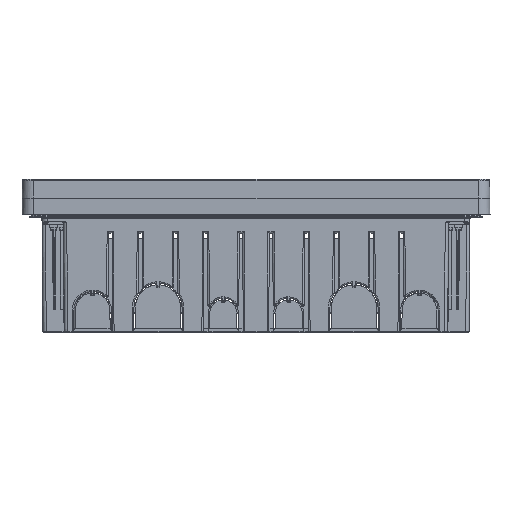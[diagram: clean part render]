
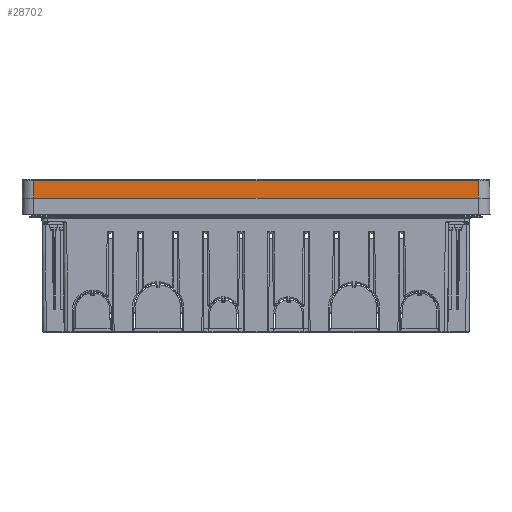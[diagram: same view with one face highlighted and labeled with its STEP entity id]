
A CAD part, front view. The second image highlights one B-rep face of the part: STEP entity #28702.
In plain terms, the highlighted planar face has unit normal (0, -1, 0.009) as drawn and (0, 1, -0.009) by its records, which use the part's own axes.
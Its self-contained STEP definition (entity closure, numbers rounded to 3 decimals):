
#771 = CARTESIAN_POINT ( 'NONE',  ( 135.554, 111.975, 10.643 ) ) ;
#2092 = CARTESIAN_POINT ( 'NONE',  ( -116.491, 111.975, 10.643 ) ) ;
#3389 = CARTESIAN_POINT ( 'NONE',  ( -112.794, 111.975, 10.643 ) ) ;
#4685 = CARTESIAN_POINT ( 'NONE',  ( -3.118, 111.975, 10.643 ) ) ;
#6034 = CARTESIAN_POINT ( 'NONE',  ( 4.928, 111.975, 10.643 ) ) ;
#7385 = EDGE_LOOP ( 'NONE', ( #228783, #73502, #76178, #251238 ) ) ;
#12554 = CARTESIAN_POINT ( 'NONE',  ( -147.916, 111.975, 10.643 ) ) ;
#13314 = VECTOR ( 'NONE', #113449, 1000. ) ;
#20834 = CARTESIAN_POINT ( 'NONE',  ( 126.96, 111.975, 10.643 ) ) ;
#20948 = VERTEX_POINT ( 'NONE', #218566 ) ;
#22150 = CARTESIAN_POINT ( 'NONE',  ( 123.263, 111.975, 10.643 ) ) ;
#24754 = CARTESIAN_POINT ( 'NONE',  ( -81.368, 111.975, 10.643 ) ) ;
#26061 = CARTESIAN_POINT ( 'NONE',  ( -109.097, 111.975, 10.643 ) ) ;
#28702 = ADVANCED_FACE ( 'NONE', ( #257021 ), #116432, .F. ) ;
#33090 = CARTESIAN_POINT ( 'NONE',  ( 148.019, 112.079, 22.5 ) ) ;
#39358 = CARTESIAN_POINT ( 'NONE',  ( -148.019, 112.079, 22.5 ) ) ;
#40869 = CARTESIAN_POINT ( 'NONE',  ( 124.495, 111.975, 10.643 ) ) ;
#42196 = CARTESIAN_POINT ( 'NONE',  ( -4.351, 111.975, 10.643 ) ) ;
#43496 = CARTESIAN_POINT ( 'NONE',  ( 62.552, 111.975, 10.643 ) ) ;
#44815 = CARTESIAN_POINT ( 'NONE',  ( -147.845, 111.975, 10.643 ) ) ;
#46130 = CARTESIAN_POINT ( 'NONE',  ( -124.502, 111.975, 10.643 ) ) ;
#51628 = DIRECTION ( 'NONE',  ( -0.009, -0.009, -1. ) ) ;
#52337 = DIRECTION ( 'NONE',  ( -1., 0., 0. ) ) ;
#58274 = EDGE_CURVE ( 'NONE', #176277, #20948, #138471, .T. ) ;
#60237 = VECTOR ( 'NONE', #51628, 1000. ) ;
#60905 = CARTESIAN_POINT ( 'NONE',  ( -0.751, 111.975, 10.643 ) ) ;
#62214 = CARTESIAN_POINT ( 'NONE',  ( 4.312, 111.975, 10.643 ) ) ;
#64831 = CARTESIAN_POINT ( 'NONE',  ( -0.113, 111.975, 10.643 ) ) ;
#66148 = CARTESIAN_POINT ( 'NONE',  ( 0.634, 111.975, 10.643 ) ) ;
#73502 = ORIENTED_EDGE ( 'NONE', *, *, #76631, .T. ) ;
#76178 = ORIENTED_EDGE ( 'NONE', *, *, #58274, .T. ) ;
#76631 = EDGE_CURVE ( 'NONE', #211110, #176277, #138477, .T. ) ;
#82301 = CARTESIAN_POINT ( 'NONE',  ( 141.682, 111.975, 10.643 ) ) ;
#83618 = CARTESIAN_POINT ( 'NONE',  ( 147.916, 111.975, 10.643 ) ) ;
#84905 = CARTESIAN_POINT ( 'NONE',  ( -16.981, 111.975, 10.643 ) ) ;
#86218 = CARTESIAN_POINT ( 'NONE',  ( 2.463, 111.975, 10.643 ) ) ;
#87537 = CARTESIAN_POINT ( 'NONE',  ( -135.557, 111.975, 10.643 ) ) ;
#89501 = B_SPLINE_CURVE_WITH_KNOTS ( 'NONE', 3,
 ( #12554, #245536, #44815, #207949, #87537, #185274, #122394, #46130, #107568, #224096, #225422, #2092, #3389, #26061, #126345, #127655, #186605, #24754, #228054, #106247, #226730, #84905, #147727, #42196, #4685, #248137, #123715, #60905, #166469, #64831, #146420, #187897, #66148, #229376, #86218, #209261, #62214, #6034, #143806, #167800, #204025, #43496, #249464, #205331, #102323, #145104, #244194, #189239, #142472, #22150, #40869, #20834, #183941, #771, #82301, #103645, #163871, #83618 ),
 .UNSPECIFIED., .F., .F.,
 ( 4, 2, 2, 2, 2, 2, 1, 2, 2, 2, 2, 2, 2, 2, 2, 2, 2, 2, 2, 2, 2, 2, 2, 1, 2, 2, 2, 2, 2, 4 ),
 ( 0., 0.106, 18.485, 22.182, 25.879, 29.576, 35.121, 40.667, 51.759, 73.942, 108.137, 142.333, 144.181, 146.03, 147.732, 147.838, 147.944, 149.762, 151.611, 153.46, 187.664, 221.869, 244.058, 255.153, 266.247, 269.945, 273.643, 277.341, 295.725, 295.831 ),
 .UNSPECIFIED. ) ;
#102323 = CARTESIAN_POINT ( 'NONE',  ( 99.841, 111.975, 10.643 ) ) ;
#103645 = CARTESIAN_POINT ( 'NONE',  ( 147.845, 111.975, 10.643 ) ) ;
#104341 = LINE ( 'NONE', #261314, #142731 ) ;
#106247 = CARTESIAN_POINT ( 'NONE',  ( -51.176, 111.975, 10.643 ) ) ;
#106781 = EDGE_CURVE ( 'NONE', #211110, #154813, #104341, .T. ) ;
#107568 = CARTESIAN_POINT ( 'NONE',  ( -123.269, 111.975, 10.643 ) ) ;
#113449 = DIRECTION ( 'NONE',  ( 1., 0., 0. ) ) ;
#116432 = PLANE ( 'NONE',  #191869 ) ;
#122394 = CARTESIAN_POINT ( 'NONE',  ( -126.966, 111.975, 10.643 ) ) ;
#123715 = CARTESIAN_POINT ( 'NONE',  ( -1.318, 111.975, 10.643 ) ) ;
#126345 = CARTESIAN_POINT ( 'NONE',  ( -103.551, 111.975, 10.643 ) ) ;
#127655 = CARTESIAN_POINT ( 'NONE',  ( -99.854, 111.975, 10.643 ) ) ;
#134514 = CARTESIAN_POINT ( 'NONE',  ( 147.822, 111.882, -0.067 ) ) ;
#138471 = LINE ( 'NONE', #134514, #60237 ) ;
#138477 = LINE ( 'NONE', #171073, #13314 ) ;
#142472 = CARTESIAN_POINT ( 'NONE',  ( 120.797, 111.975, 10.643 ) ) ;
#142731 = VECTOR ( 'NONE', #226111, 1000. ) ;
#143806 = CARTESIAN_POINT ( 'NONE',  ( 16.946, 111.975, 10.643 ) ) ;
#145104 = CARTESIAN_POINT ( 'NONE',  ( 107.237, 111.975, 10.643 ) ) ;
#146420 = CARTESIAN_POINT ( 'NONE',  ( -0.042, 111.975, 10.643 ) ) ;
#147727 = CARTESIAN_POINT ( 'NONE',  ( -4.967, 111.975, 10.643 ) ) ;
#154813 = VERTEX_POINT ( 'NONE', #209840 ) ;
#163871 = CARTESIAN_POINT ( 'NONE',  ( 147.88, 111.975, 10.643 ) ) ;
#166469 = CARTESIAN_POINT ( 'NONE',  ( -0.148, 111.975, 10.643 ) ) ;
#167800 = CARTESIAN_POINT ( 'NONE',  ( 28.347, 111.975, 10.643 ) ) ;
#171073 = CARTESIAN_POINT ( 'NONE',  ( 0., 112.079, 22.5 ) ) ;
#176277 = VERTEX_POINT ( 'NONE', #33090 ) ;
#183941 = CARTESIAN_POINT ( 'NONE',  ( 128.193, 111.975, 10.643 ) ) ;
#185274 = CARTESIAN_POINT ( 'NONE',  ( -128.198, 111.975, 10.643 ) ) ;
#186605 = CARTESIAN_POINT ( 'NONE',  ( -88.762, 111.975, 10.643 ) ) ;
#187897 = CARTESIAN_POINT ( 'NONE',  ( -0.007, 111.975, 10.643 ) ) ;
#189239 = CARTESIAN_POINT ( 'NONE',  ( 119.565, 111.975, 10.643 ) ) ;
#191869 = AXIS2_PLACEMENT_3D ( 'NONE', #196743, #198070, #52337 ) ;
#196743 = CARTESIAN_POINT ( 'NONE',  ( 0., 112.174, 33.4 ) ) ;
#198070 = DIRECTION ( 'NONE',  ( 0., -1., 0.009 ) ) ;
#204025 = CARTESIAN_POINT ( 'NONE',  ( 51.15, 111.975, 10.643 ) ) ;
#205331 = CARTESIAN_POINT ( 'NONE',  ( 88.746, 111.975, 10.643 ) ) ;
#207949 = CARTESIAN_POINT ( 'NONE',  ( -141.684, 111.975, 10.643 ) ) ;
#208494 = EDGE_CURVE ( 'NONE', #154813, #20948, #89501, .T. ) ;
#209261 = CARTESIAN_POINT ( 'NONE',  ( 3.079, 111.975, 10.643 ) ) ;
#209840 = CARTESIAN_POINT ( 'NONE',  ( -147.916, 111.975, 10.643 ) ) ;
#211110 = VERTEX_POINT ( 'NONE', #39358 ) ;
#218566 = CARTESIAN_POINT ( 'NONE',  ( 147.916, 111.975, 10.643 ) ) ;
#224096 = CARTESIAN_POINT ( 'NONE',  ( -120.805, 111.975, 10.643 ) ) ;
#225422 = CARTESIAN_POINT ( 'NONE',  ( -119.572, 111.975, 10.643 ) ) ;
#226111 = DIRECTION ( 'NONE',  ( 0.009, -0.009, -1. ) ) ;
#226730 = CARTESIAN_POINT ( 'NONE',  ( -28.38, 111.975, 10.643 ) ) ;
#228054 = CARTESIAN_POINT ( 'NONE',  ( -62.575, 111.975, 10.643 ) ) ;
#228783 = ORIENTED_EDGE ( 'NONE', *, *, #106781, .F. ) ;
#229376 = CARTESIAN_POINT ( 'NONE',  ( 1.24, 111.975, 10.643 ) ) ;
#244194 = CARTESIAN_POINT ( 'NONE',  ( 114.634, 111.975, 10.643 ) ) ;
#245536 = CARTESIAN_POINT ( 'NONE',  ( -147.88, 111.975, 10.643 ) ) ;
#248137 = CARTESIAN_POINT ( 'NONE',  ( -2.502, 111.975, 10.643 ) ) ;
#249464 = CARTESIAN_POINT ( 'NONE',  ( 81.35, 111.975, 10.643 ) ) ;
#251238 = ORIENTED_EDGE ( 'NONE', *, *, #208494, .F. ) ;
#257021 = FACE_OUTER_BOUND ( 'NONE', #7385, .T. ) ;
#261314 = CARTESIAN_POINT ( 'NONE',  ( -147.822, 111.882, -0.067 ) ) ;
